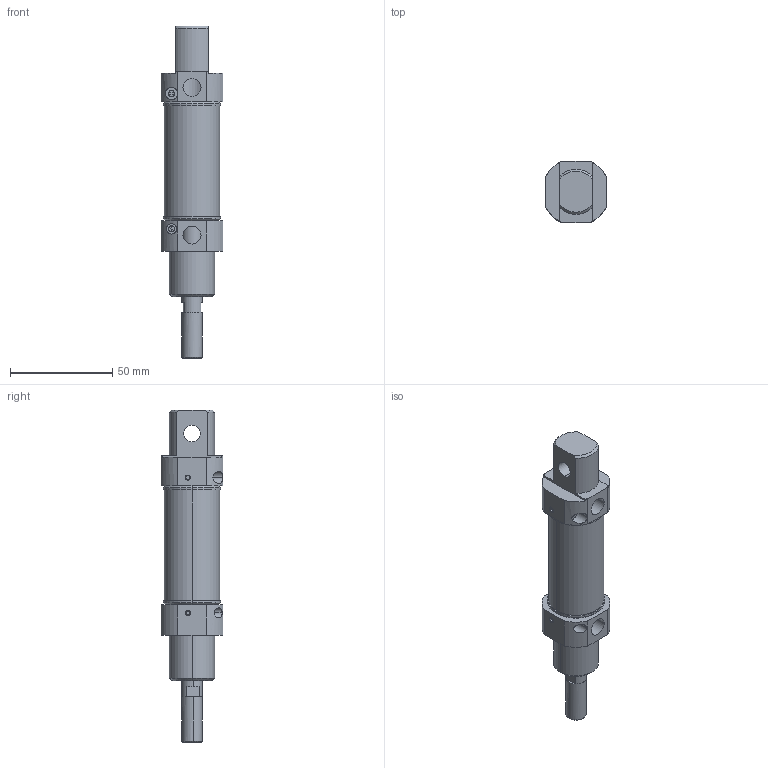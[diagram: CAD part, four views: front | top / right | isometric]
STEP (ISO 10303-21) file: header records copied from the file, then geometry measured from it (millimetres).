
FILE_DESCRIPTION (( 'STEP AP214' ), '1' );
FILE_NAME ('RMAY_25_25_WEB.STEP', '2021-05-06T16:05:01', ( '' ), ( '' ), 'SwSTEP 2.0', 'SolidWorks 2021', '' );
FILE_SCHEMA (( 'AUTOMOTIVE_DESIGN' ));
Length unit declared in the file: millimetre
Products named in the file (9): yastýk_vidasý; 1012_PAPYUZUK; RMAY_25_25_WEB; socket set screw cone point_am_B18.3.6M - M3 x 0.5 x 2.5 Hex Socket Cone Pt. SS --N; RMAY_25_onkapak; 25_100_boru; RMAY_25_100_mil_WEB; RMAY_25_arkakapak; KASTAS-K52-10X16_2X4_5-6
Assembly tree (10 placements, depth 2):
  RMAY_25_25_WEB
    25_100_boru
    RMAY_25_onkapak
    KASTAS-K52-10X16_2X4_5-6
    1012_PAPYUZUK
    RMAY_25_arkakapak
    RMAY_25_100_mil_WEB
    yastýk_vidasý  x2
    socket set screw cone point_am_B18.3.6M - M3 x 0.5 x 2.5 Hex Socket Cone Pt. SS --N  x2
Bounding box: 30 x 30 x 162 mm (x, y, z)
Volume: 47011.4 mm3; surface area: 30126.3 mm2
Topology: 10 solids, 10 shells, 470 faces, 1172 edges, 752 vertices
Faces by surface type: plane 175, cylinder 150, bspline 89, cone 54, torus 2
Entity records: 19815 total; most frequent: CARTESIAN_POINT 7751, ORIENTED_EDGE 2140, DIRECTION 1870, EDGE_CURVE 1070, AXIS2_PLACEMENT_3D 687, VERTEX_POINT 687, VECTOR 496, LINE 496
